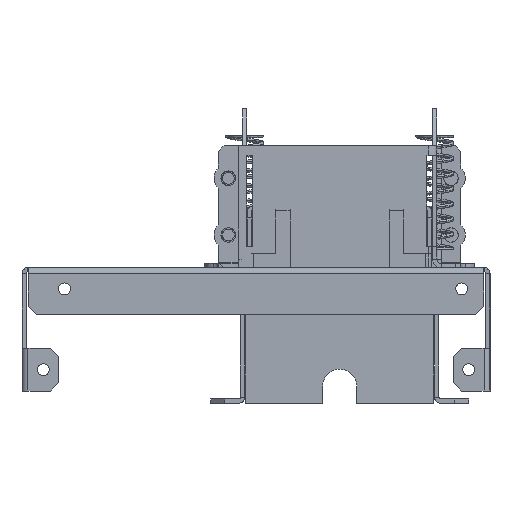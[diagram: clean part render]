
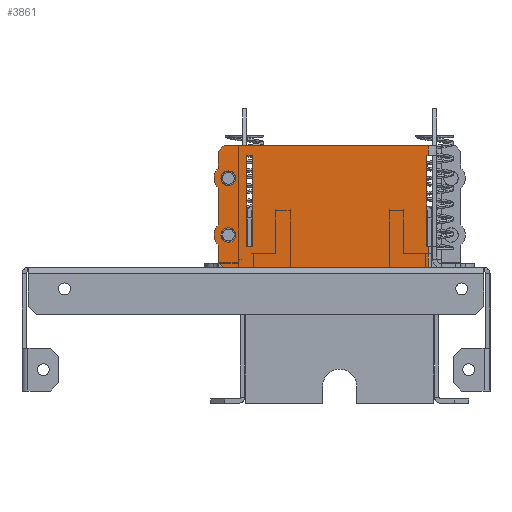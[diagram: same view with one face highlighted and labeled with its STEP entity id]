
A CAD part, left-side view. The second image highlights one B-rep face of the part: STEP entity #3861.
In plain terms, the highlighted planar face has unit normal (-1, 0, 0) as drawn and (0, 0, 1) by its records, which use the part's own axes.
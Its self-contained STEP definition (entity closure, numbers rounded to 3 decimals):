
#2531=CARTESIAN_POINT(' ',(26.5,15.5,0.));
#2532=VERTEX_POINT(' ',#2531);
#2546=CARTESIAN_POINT(' ',(26.5,15.5,0.));
#2551=DIRECTION(' ',(0.,-1.,0.));
#2556=VECTOR(' ',#2551,1.);
#2561=LINE('',#2546,#2556);
#2566=CARTESIAN_POINT(' ',(26.5,-16.5,0.));
#2567=VERTEX_POINT(' ',#2566);
#2571=EDGE_CURVE(' ',#2532,#2567,#2561,.T.);
#2711=CARTESIAN_POINT(' ',(28.5,15.5,0.));
#2712=VERTEX_POINT(' ',#2711);
#2726=CARTESIAN_POINT(' ',(28.5,15.5,0.));
#2731=DIRECTION(' ',(-1.,0.,0.));
#2736=VECTOR(' ',#2731,1.);
#2741=LINE('',#2726,#2736);
#2746=EDGE_CURVE(' ',#2712,#2532,#2741,.T.);
#2806=DIRECTION(' ',(0.,0.,1.));
#2811=CARTESIAN_POINT(' ',(-35.5,-20.,0.));
#2816=DIRECTION(' ',(1.,0.,0.));
#2821=AXIS2_PLACEMENT_3D(' ',#2811,#2806,#2816);
#2826=PLANE('NONE',#2821);
#2831=CARTESIAN_POINT(' ',(-35.,15.5,0.));
#2836=DIRECTION(' ',(-1.,0.,0.));
#2841=VECTOR(' ',#2836,1.);
#2846=LINE('',#2831,#2841);
#2851=CARTESIAN_POINT(' ',(-35.,15.5,0.));
#2852=VERTEX_POINT(' ',#2851);
#2856=CARTESIAN_POINT(' ',(-35.5,15.5,0.));
#2857=VERTEX_POINT(' ',#2856);
#2861=EDGE_CURVE(' ',#2852,#2857,#2846,.T.);
#2866=ORIENTED_EDGE(' ',*,*,#2861,.F.);
#2871=CARTESIAN_POINT(' ',(-35.,-16.5,0.));
#2876=DIRECTION(' ',(0.,1.,0.));
#2881=VECTOR(' ',#2876,1.);
#2886=LINE('',#2871,#2881);
#2891=CARTESIAN_POINT(' ',(-35.,-16.5,0.));
#2892=VERTEX_POINT(' ',#2891);
#2896=EDGE_CURVE(' ',#2892,#2852,#2886,.T.);
#2901=ORIENTED_EDGE(' ',*,*,#2896,.F.);
#2906=CARTESIAN_POINT(' ',(-35.5,-16.5,0.));
#2911=DIRECTION(' ',(1.,0.,0.));
#2916=VECTOR(' ',#2911,1.);
#2921=LINE('',#2906,#2916);
#2926=CARTESIAN_POINT(' ',(-35.5,-16.5,0.));
#2927=VERTEX_POINT(' ',#2926);
#2931=EDGE_CURVE(' ',#2927,#2892,#2921,.T.);
#2936=ORIENTED_EDGE(' ',*,*,#2931,.F.);
#2941=CARTESIAN_POINT(' ',(-35.5,-16.5,0.));
#2946=DIRECTION(' ',(0.,-1.,0.));
#2951=VECTOR(' ',#2946,1.);
#2956=LINE('',#2941,#2951);
#2961=CARTESIAN_POINT(' ',(-35.5,-20.,0.));
#2962=VERTEX_POINT(' ',#2961);
#2966=EDGE_CURVE(' ',#2927,#2962,#2956,.T.);
#2971=ORIENTED_EDGE(' ',*,*,#2966,.T.);
#2976=CARTESIAN_POINT(' ',(-35.5,-20.,0.));
#2981=DIRECTION(' ',(1.,0.,0.));
#2986=VECTOR(' ',#2981,1.);
#2991=LINE('',#2976,#2986);
#2996=CARTESIAN_POINT(' ',(36.5,-20.,0.));
#2997=VERTEX_POINT(' ',#2996);
#3001=EDGE_CURVE(' ',#2962,#2997,#2991,.T.);
#3006=ORIENTED_EDGE(' ',*,*,#3001,.T.);
#3011=CARTESIAN_POINT(' ',(36.5,-20.,0.));
#3016=DIRECTION(' ',(0.707,0.707,0.));
#3021=VECTOR(' ',#3016,1.);
#3026=LINE('',#3011,#3021);
#3031=CARTESIAN_POINT(' ',(38.5,-18.,0.));
#3032=VERTEX_POINT(' ',#3031);
#3036=EDGE_CURVE(' ',#2997,#3032,#3026,.T.);
#3041=ORIENTED_EDGE(' ',*,*,#3036,.T.);
#3046=CARTESIAN_POINT(' ',(38.5,-18.,0.));
#3051=DIRECTION(' ',(0.,1.,0.));
#3056=VECTOR(' ',#3051,1.);
#3061=LINE('',#3046,#3056);
#3066=CARTESIAN_POINT(' ',(38.5,-12.071,0.));
#3067=VERTEX_POINT(' ',#3066);
#3071=EDGE_CURVE(' ',#3032,#3067,#3061,.T.);
#3076=ORIENTED_EDGE(' ',*,*,#3071,.T.);
#3081=CARTESIAN_POINT(' ',(35.,-8.5,0.));
#3086=DIRECTION(' ',(0.,0.,1.));
#3091=DIRECTION(' ',(0.7,-0.714,0.));
#3096=AXIS2_PLACEMENT_3D(' ',#3081,#3086,#3091);
#3101=CIRCLE('',#3096,5.);
#3106=CARTESIAN_POINT(' ',(40.,-8.5,0.));
#3107=VERTEX_POINT(' ',#3106);
#3111=EDGE_CURVE(' ',#3067,#3107,#3101,.T.);
#3116=ORIENTED_EDGE(' ',*,*,#3111,.T.);
#3121=CARTESIAN_POINT(' ',(35.,-8.5,0.));
#3126=DIRECTION(' ',(0.,0.,1.));
#3131=DIRECTION(' ',(1.,0.,0.));
#3136=AXIS2_PLACEMENT_3D(' ',#3121,#3126,#3131);
#3141=CIRCLE('',#3136,5.);
#3146=CARTESIAN_POINT(' ',(38.5,-4.929,0.));
#3147=VERTEX_POINT(' ',#3146);
#3151=EDGE_CURVE(' ',#3107,#3147,#3141,.T.);
#3156=ORIENTED_EDGE(' ',*,*,#3151,.T.);
#3161=CARTESIAN_POINT(' ',(38.5,-4.929,0.));
#3166=DIRECTION(' ',(0.,1.,0.));
#3171=VECTOR(' ',#3166,1.);
#3176=LINE('',#3161,#3171);
#3181=CARTESIAN_POINT(' ',(38.5,7.929,0.));
#3182=VERTEX_POINT(' ',#3181);
#3186=EDGE_CURVE(' ',#3147,#3182,#3176,.T.);
#3191=ORIENTED_EDGE(' ',*,*,#3186,.T.);
#3196=CARTESIAN_POINT(' ',(35.,11.5,0.));
#3201=DIRECTION(' ',(0.,0.,1.));
#3206=DIRECTION(' ',(0.7,-0.714,0.));
#3211=AXIS2_PLACEMENT_3D(' ',#3196,#3201,#3206);
#3216=CIRCLE('',#3211,5.);
#3221=CARTESIAN_POINT(' ',(40.,11.5,0.));
#3222=VERTEX_POINT(' ',#3221);
#3226=EDGE_CURVE(' ',#3182,#3222,#3216,.T.);
#3231=ORIENTED_EDGE(' ',*,*,#3226,.T.);
#3236=CARTESIAN_POINT(' ',(35.,11.5,0.));
#3241=DIRECTION(' ',(0.,0.,1.));
#3246=DIRECTION(' ',(1.,0.,0.));
#3251=AXIS2_PLACEMENT_3D(' ',#3236,#3241,#3246);
#3256=CIRCLE('',#3251,5.);
#3261=CARTESIAN_POINT(' ',(38.5,15.071,0.));
#3262=VERTEX_POINT(' ',#3261);
#3266=EDGE_CURVE(' ',#3222,#3262,#3256,.T.);
#3271=ORIENTED_EDGE(' ',*,*,#3266,.T.);
#3276=CARTESIAN_POINT(' ',(38.5,15.071,0.));
#3281=DIRECTION(' ',(0.,1.,0.));
#3286=VECTOR(' ',#3281,1.);
#3291=LINE('',#3276,#3286);
#3296=CARTESIAN_POINT(' ',(38.5,21.,0.));
#3297=VERTEX_POINT(' ',#3296);
#3301=EDGE_CURVE(' ',#3262,#3297,#3291,.T.);
#3306=ORIENTED_EDGE(' ',*,*,#3301,.T.);
#3311=CARTESIAN_POINT(' ',(38.5,21.,0.));
#3316=DIRECTION(' ',(-0.707,0.707,0.));
#3321=VECTOR(' ',#3316,1.);
#3326=LINE('',#3311,#3321);
#3331=CARTESIAN_POINT(' ',(36.5,23.,0.));
#3332=VERTEX_POINT(' ',#3331);
#3336=EDGE_CURVE(' ',#3297,#3332,#3326,.T.);
#3341=ORIENTED_EDGE(' ',*,*,#3336,.T.);
#3346=CARTESIAN_POINT(' ',(36.5,23.,0.));
#3351=DIRECTION(' ',(-1.,0.,0.));
#3356=VECTOR(' ',#3351,1.);
#3361=LINE('',#3346,#3356);
#3366=CARTESIAN_POINT(' ',(0.75,23.,0.));
#3367=VERTEX_POINT(' ',#3366);
#3371=EDGE_CURVE(' ',#3332,#3367,#3361,.T.);
#3376=ORIENTED_EDGE(' ',*,*,#3371,.T.);
#3381=CARTESIAN_POINT(' ',(0.75,23.,0.));
#3386=DIRECTION(' ',(0.,1.,0.));
#3391=VECTOR(' ',#3386,1.);
#3396=LINE('',#3381,#3391);
#3401=CARTESIAN_POINT(' ',(0.75,25.,0.));
#3402=VERTEX_POINT(' ',#3401);
#3406=EDGE_CURVE(' ',#3367,#3402,#3396,.T.);
#3411=ORIENTED_EDGE(' ',*,*,#3406,.T.);
#3416=CARTESIAN_POINT(' ',(0.75,25.,0.));
#3421=DIRECTION(' ',(-1.,0.,0.));
#3426=VECTOR(' ',#3421,1.);
#3431=LINE('',#3416,#3426);
#3436=CARTESIAN_POINT(' ',(-9.25,25.,0.));
#3437=VERTEX_POINT(' ',#3436);
#3441=EDGE_CURVE(' ',#3402,#3437,#3431,.T.);
#3446=ORIENTED_EDGE(' ',*,*,#3441,.T.);
#3451=CARTESIAN_POINT(' ',(-9.25,25.,0.));
#3456=DIRECTION(' ',(0.,-1.,0.));
#3461=VECTOR(' ',#3456,1.);
#3466=LINE('',#3451,#3461);
#3471=CARTESIAN_POINT(' ',(-9.25,23.,0.));
#3472=VERTEX_POINT(' ',#3471);
#3476=EDGE_CURVE(' ',#3437,#3472,#3466,.T.);
#3481=ORIENTED_EDGE(' ',*,*,#3476,.T.);
#3486=CARTESIAN_POINT(' ',(-9.25,23.,0.));
#3491=DIRECTION(' ',(-1.,0.,0.));
#3496=VECTOR(' ',#3491,1.);
#3501=LINE('',#3486,#3496);
#3506=CARTESIAN_POINT(' ',(-35.5,23.,0.));
#3507=VERTEX_POINT(' ',#3506);
#3511=EDGE_CURVE(' ',#3472,#3507,#3501,.T.);
#3516=ORIENTED_EDGE(' ',*,*,#3511,.T.);
#3521=CARTESIAN_POINT(' ',(-35.5,23.,0.));
#3526=DIRECTION(' ',(0.,-1.,0.));
#3531=VECTOR(' ',#3526,1.);
#3536=LINE('',#3521,#3531);
#3541=CARTESIAN_POINT(' ',(-35.5,20.,0.));
#3542=VERTEX_POINT(' ',#3541);
#3546=EDGE_CURVE(' ',#3507,#3542,#3536,.T.);
#3551=ORIENTED_EDGE(' ',*,*,#3546,.T.);
#3556=CARTESIAN_POINT(' ',(-35.5,20.,0.));
#3561=DIRECTION(' ',(0.,-1.,0.));
#3566=VECTOR(' ',#3561,1.);
#3571=LINE('',#3556,#3566);
#3576=EDGE_CURVE(' ',#3542,#2857,#3571,.T.);
#3581=ORIENTED_EDGE(' ',*,*,#3576,.T.);
#3586=EDGE_LOOP(' ',(#2866,#2901,#2936,#2971,#3006,#3041,#3076,#3116,#3156,#3191,#3231,#3271,#3306,#3341,#3376,#3411,#3446,#3481,#3516,#3551,#3581));
#3591=FACE_OUTER_BOUND(' ',#3586,.T.);
#3596=CARTESIAN_POINT(' ',(28.5,-16.5,0.));
#3601=DIRECTION(' ',(0.,1.,0.));
#3606=VECTOR(' ',#3601,1.);
#3611=LINE('',#3596,#3606);
#3616=CARTESIAN_POINT(' ',(28.5,-16.5,0.));
#3617=VERTEX_POINT(' ',#3616);
#3621=EDGE_CURVE(' ',#3617,#2712,#3611,.T.);
#3626=ORIENTED_EDGE(' ',*,*,#3621,.F.);
#3631=CARTESIAN_POINT(' ',(26.5,-16.5,0.));
#3636=DIRECTION(' ',(1.,0.,0.));
#3641=VECTOR(' ',#3636,1.);
#3646=LINE('',#3631,#3641);
#3651=EDGE_CURVE(' ',#2567,#3617,#3646,.T.);
#3656=ORIENTED_EDGE(' ',*,*,#3651,.F.);
#3661=ORIENTED_EDGE(' ',*,*,#2571,.F.);
#3666=ORIENTED_EDGE(' ',*,*,#2746,.F.);
#3671=EDGE_LOOP(' ',(#3626,#3656,#3661,#3666));
#3676=FACE_BOUND(' ',#3671,.T.);
#3681=CARTESIAN_POINT(' ',(35.,11.5,0.));
#3686=DIRECTION(' ',(0.,0.,1.));
#3691=DIRECTION(' ',(1.,0.,0.));
#3696=AXIS2_PLACEMENT_3D(' ',#3681,#3686,#3691);
#3701=CIRCLE('',#3696,2.6);
#3706=CARTESIAN_POINT(' ',(37.6,11.5,0.));
#3707=VERTEX_POINT(' ',#3706);
#3711=CARTESIAN_POINT(' ',(32.4,11.5,0.));
#3712=VERTEX_POINT(' ',#3711);
#3716=EDGE_CURVE(' ',#3707,#3712,#3701,.T.);
#3721=ORIENTED_EDGE(' ',*,*,#3716,.F.);
#3726=CARTESIAN_POINT(' ',(35.,11.5,0.));
#3731=DIRECTION(' ',(0.,-0.,1.));
#3736=DIRECTION(' ',(-1.,0.,0.));
#3741=AXIS2_PLACEMENT_3D(' ',#3726,#3731,#3736);
#3746=CIRCLE('',#3741,2.6);
#3751=EDGE_CURVE(' ',#3712,#3707,#3746,.T.);
#3756=ORIENTED_EDGE(' ',*,*,#3751,.F.);
#3761=EDGE_LOOP(' ',(#3721,#3756));
#3766=FACE_BOUND(' ',#3761,.T.);
#3771=CARTESIAN_POINT(' ',(35.,-8.5,0.));
#3776=DIRECTION(' ',(0.,0.,1.));
#3781=DIRECTION(' ',(1.,0.,0.));
#3786=AXIS2_PLACEMENT_3D(' ',#3771,#3776,#3781);
#3791=CIRCLE('',#3786,2.6);
#3796=CARTESIAN_POINT(' ',(37.6,-8.5,0.));
#3797=VERTEX_POINT(' ',#3796);
#3801=CARTESIAN_POINT(' ',(32.4,-8.5,0.));
#3802=VERTEX_POINT(' ',#3801);
#3806=EDGE_CURVE(' ',#3797,#3802,#3791,.T.);
#3811=ORIENTED_EDGE(' ',*,*,#3806,.F.);
#3816=CARTESIAN_POINT(' ',(35.,-8.5,0.));
#3821=DIRECTION(' ',(0.,-0.,1.));
#3826=DIRECTION(' ',(-1.,0.,0.));
#3831=AXIS2_PLACEMENT_3D(' ',#3816,#3821,#3826);
#3836=CIRCLE('',#3831,2.6);
#3841=EDGE_CURVE(' ',#3802,#3797,#3836,.T.);
#3846=ORIENTED_EDGE(' ',*,*,#3841,.F.);
#3851=EDGE_LOOP(' ',(#3811,#3846));
#3856=FACE_BOUND(' ',#3851,.T.);
#3861=ADVANCED_FACE('NONE',(#3591,#3676,#3766,#3856),#2826,.T.);
